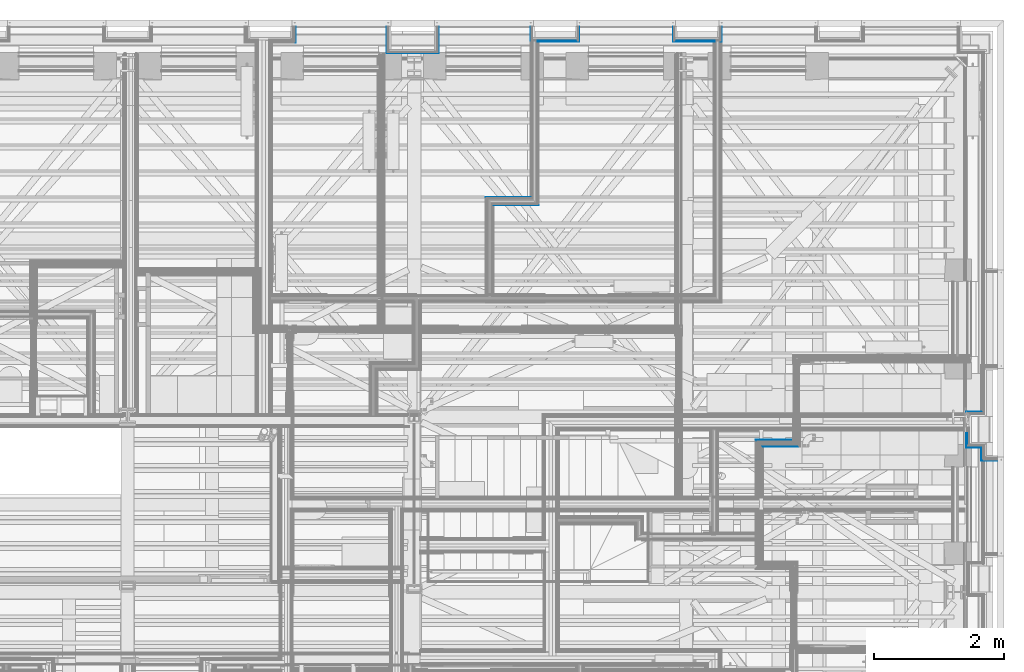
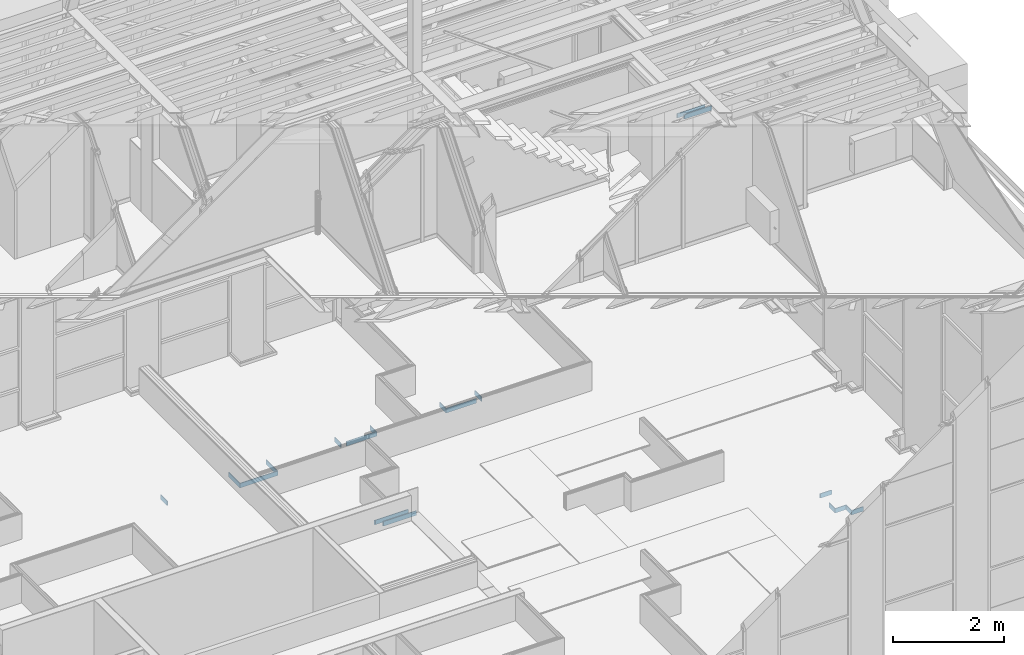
# One storey, part 80 of 183: 19 building element parts, 17 elements without a shape of their own.
"""IFC2X3 building model written with IfcOpenShell, lengths in metres."""

import ifcopenshell
import ifcopenshell.guid

model = None  # the IFC model being written
_history = None  # IfcOwnerHistory: only IFC2X3 demands one
_inside = {}  # id of a spatial element -> (the spatial element, [elements in it])
_under = {}  # id of a project, library or spatial element -> (it, [spatial elements below it])
_declared = {}  # id of a project -> (the project, [libraries it declares])
_typed = {}  # id of a type object -> (the type object, [elements of that type])
_made_of = {}  # id of a material, layer set ... -> (it, [elements and type objects made of it])


def new_model(schema):
    """Start an empty IFC model of exactly this schema.

    Asked for "IFC4X3", IfcOpenShell would pick the latest addendum, in which some entities
    have other attributes; the version numbers below select the first issue.
    IFC2X3 requires an IfcOwnerHistory on every rooted entity: one is made here for all.
    """
    global model, _history
    if schema == "IFC4X3":
        model = ifcopenshell.file(schema_version=(4, 3, 0, 0))
    else:
        model = ifcopenshell.file(schema=schema)
    _inside.clear()
    _under.clear()
    _declared.clear()
    _typed.clear()
    _made_of.clear()
    _history = None
    if model.schema == "IFC2X3":
        org = make("IfcOrganization", Name="unknown")
        user = make(
            "IfcPersonAndOrganization",
            ThePerson=make("IfcPerson", FamilyName="unknown"),
            TheOrganization=org,
        )
        app = make(
            "IfcApplication",
            ApplicationDeveloper=org,
            Version="unknown",
            ApplicationFullName="unknown",
            ApplicationIdentifier="unknown",
        )
        _history = make(
            "IfcOwnerHistory",
            OwningUser=user,
            OwningApplication=app,
            ChangeAction="ADDED",
            CreationDate=0,
        )
    return model


def make(cls, **values):
    """One entity of the class cls with the attributes given. An attribute that is None is left unset."""
    return model.create_entity(
        cls, **{name: value for name, value in values.items() if value is not None}
    )


def entity(cls, *values):
    """Any entity or typed value of the class cls, its attributes in the order of the schema. None: left unset."""
    e = model.create_entity(cls)
    for i, value in enumerate(values):
        if value is not None:
            e[i] = value
    return e


def rooted(cls, **values):
    """An entity with a GlobalId (a new one), such as an element, a storey or a relation."""
    return make(cls, GlobalId=ifcopenshell.guid.new(), OwnerHistory=_history, **values)


def si_unit(unit_type, name, prefix=None):
    """IfcSIUnit, for example si_unit("LENGTHUNIT", "METRE", prefix="MILLI")."""
    return make("IfcSIUnit", UnitType=unit_type, Prefix=prefix, Name=name)


def converted_unit(unit_type, name, factor, base, dimensions=None, offset=None):
    """IfcConversionBasedUnit, such as the inch: factor (a typed value) times the base unit."""
    return make(
        "IfcConversionBasedUnit"
        if offset is None
        else "IfcConversionBasedUnitWithOffset",
        ConversionOffset=offset,
        Dimensions=None
        if dimensions is None
        else entity("IfcDimensionalExponents", *dimensions),
        UnitType=unit_type,
        Name=name,
        ConversionFactor=make(
            "IfcMeasureWithUnit", ValueComponent=factor, UnitComponent=base
        ),
    )


def derived_unit(unit_type, elements):
    """IfcDerivedUnit: a product of units, each with its exponent."""
    return make(
        "IfcDerivedUnit",
        Elements=[
            make("IfcDerivedUnitElement", Unit=unit, Exponent=power)
            for unit, power in elements
        ],
        UnitType=unit_type,
    )


def money_unit(currency):
    """IfcMonetaryUnit."""
    return make("IfcMonetaryUnit", Currency=currency)


def assignment(units):
    """IfcUnitAssignment: the units of a project."""
    return None if units is None else make("IfcUnitAssignment", Units=units)


def point(xyz):
    """IfcCartesianPoint."""
    return None if xyz is None else make("IfcCartesianPoint", Coordinates=xyz)


def direction(xyz):
    """IfcDirection."""
    return None if xyz is None else make("IfcDirection", DirectionRatios=xyz)


def frame(location, z_axis=None, x_axis=None):
    """IfcAxis2Placement3D, a coordinate frame: its origin and axes. An axis left out is left unset."""
    return make(
        "IfcAxis2Placement3D",
        Location=point(location),
        Axis=direction(z_axis),
        RefDirection=direction(x_axis),
    )


def frame_2d(location, x_axis=None):
    """IfcAxis2Placement2D, a coordinate frame in the plane: its origin and x axis."""
    return make(
        "IfcAxis2Placement2D", Location=point(location), RefDirection=direction(x_axis)
    )


def origin_with_axes():
    """The frame at (0, 0, 0) with the z axis (0, 0, 1) and the x axis (1, 0, 0) written out."""
    return frame((0.0, 0.0, 0.0), z_axis=(0.0, 0.0, 1.0), x_axis=(1.0, 0.0, 0.0))


def place(relative_to, where):
    """IfcLocalPlacement: puts the frame where relative to a parent placement (None: the world)."""
    return make(
        "IfcLocalPlacement", PlacementRelTo=relative_to, RelativePlacement=where
    )


def context(
    kind, dimensions, precision=None, world=None, true_north=None, identifier=None
):
    """IfcGeometricRepresentationContext, for example the 3D "Model" context."""
    return make(
        "IfcGeometricRepresentationContext",
        ContextIdentifier=identifier,
        ContextType=kind,
        CoordinateSpaceDimension=dimensions,
        Precision=precision,
        WorldCoordinateSystem=world,
        TrueNorth=true_north,
    )


def subcontext(parent, identifier, kind, view, scale=None):
    """IfcGeometricRepresentationSubContext, for example "Body" below "Model"."""
    return make(
        "IfcGeometricRepresentationSubContext",
        ContextIdentifier=identifier,
        ContextType=kind,
        ParentContext=parent,
        TargetScale=scale,
        TargetView=view,
    )


def project(units=None, contexts=None):
    """IfcProject with its units and contexts."""
    return rooted(
        "IfcProject",
        Name="project",
        RepresentationContexts=contexts,
        UnitsInContext=assignment(units),
    )


def spatial(cls, under=None, at=None, **own):
    """A site, building, storey or space (cls), placed at a placement, below another one or the project."""
    s = rooted(cls, ObjectPlacement=at, **own)
    if under is not None:
        _under.setdefault(under.id(), (under, []))[1].append(s)
    return s


def polyline(points):
    """IfcPolyline through the points."""
    return make("IfcPolyline", Points=[point(p) for p in points])


def profile(cls, at=None, kind="AREA", **sizes):
    """A parametric profile (cls). Its sizes go by their IFC names, for example OverallWidth=200.0."""
    return make(cls, ProfileType=kind, Position=at, **sizes)


def rectangle(**sizes):
    """IfcRectangleProfileDef."""
    return profile("IfcRectangleProfileDef", **sizes)


def outline(outer, holes=None, kind="AREA"):
    """IfcArbitraryClosedProfileDef: a profile drawn as a closed curve; with holes, ...WithVoids."""
    if holes is None:
        return make("IfcArbitraryClosedProfileDef", ProfileType=kind, OuterCurve=outer)
    return make(
        "IfcArbitraryProfileDefWithVoids",
        ProfileType=kind,
        OuterCurve=outer,
        InnerCurves=holes,
    )


def extrude(swept, where, along, depth):
    """IfcExtrudedAreaSolid: the profile swept, set in the frame where, extruded along a direction by depth."""
    return make(
        "IfcExtrudedAreaSolid",
        SweptArea=swept,
        Position=where,
        ExtrudedDirection=direction(along),
        Depth=depth,
    )


def shape(context_of_items, identifier, shape_type, items):
    """IfcShapeRepresentation: the items that make up one representation, for example the "Body"."""
    return make(
        "IfcShapeRepresentation",
        ContextOfItems=context_of_items,
        RepresentationIdentifier=identifier,
        RepresentationType=shape_type,
        Items=items,
    )


def material(Name=None, Category=None):
    """IfcMaterial."""
    return make("IfcMaterial", Name=Name, Category=Category)


def made_of(thing, what):
    """Note that an element or type object is made of a material, layer set ...; save() writes the relation."""
    if what is not None:
        _made_of.setdefault(what.id(), (what, []))[1].append(thing)
    return thing


def type_object(cls, material=None, **own):
    """A type object (cls), such as IfcWallType, which elements share."""
    return made_of(rooted(cls, **own), material)


def element(
    cls,
    number,
    at=None,
    inside=None,
    cuts=None,
    type_object=None,
    material=None,
    context=None,
    identifier="Body",
    shape_type=None,
    held_by="IfcProductDefinitionShape",
    body=None,
    shapes=None,
    **own,
):
    """One element of the class cls, such as IfcWall. Its Tag is "e" and its number.

    at: its placement. inside: the storey or other place that contains it. cuts: it is an
    opening in that element (IfcRelVoidsElement). A single representation is given by context,
    identifier, shape_type and body (its items); several are given by shapes. held_by: the class
    of the entity that holds the representations. save() writes the other relations.
    """
    e = rooted(cls, Tag="e%d" % number, ObjectPlacement=at, **own)
    if body is not None:
        shapes = [shape(context, identifier, shape_type, body)]
    if shapes is not None:
        e.Representation = make(held_by, Representations=shapes)
    if inside is not None:
        _inside.setdefault(inside.id(), (inside, []))[1].append(e)
    if cuts is not None:
        rooted(
            "IfcRelVoidsElement", RelatingBuildingElement=cuts, RelatedOpeningElement=e
        )
    if type_object is not None:
        _typed.setdefault(type_object.id(), (type_object, []))[1].append(e)
    return made_of(e, material)


def aggregate(whole, parts):
    """IfcRelAggregates: a whole, such as a stair, and the parts it consists of."""
    return rooted("IfcRelAggregates", RelatingObject=whole, RelatedObjects=parts)


def save(model, path):
    """Write the relations noted so far, then the file.

    IfcRelAggregates (storeys below a building ...), IfcRelContainedInSpatialStructure (elements
    in a storey), IfcRelDefinesByType, IfcRelAssociatesMaterial and IfcRelDeclares: one each for
    every whole, place, type object, material and project.
    """
    for whole, parts in _under.values():
        aggregate(whole, parts)
    for where, things in _inside.values():
        rooted(
            "IfcRelContainedInSpatialStructure",
            RelatedElements=things,
            RelatingStructure=where,
        )
    for kind, things in _typed.values():
        rooted("IfcRelDefinesByType", RelatedObjects=things, RelatingType=kind)
    for what, things in _made_of.values():
        rooted("IfcRelAssociatesMaterial", RelatedObjects=things, RelatingMaterial=what)
    for by, libraries in _declared.values():
        rooted("IfcRelDeclares", RelatingContext=by, RelatedDefinitions=libraries)
    model.write(path)


model = new_model("IFC2X3")

# Units and contexts
model_context = context("Model", 3, precision=1e-05, world=origin_with_axes(), true_north=direction((0.0, 1.0)))
body_context = subcontext(model_context, "Body", "Model", "MODEL_VIEW", scale=1.0)
ifc_project = project(units=[si_unit("LENGTHUNIT", "METRE"), si_unit("AREAUNIT", "SQUARE_METRE"), si_unit("VOLUMEUNIT", "CUBIC_METRE"), si_unit("ABSORBEDDOSEUNIT", "GRAY"), si_unit("AMOUNTOFSUBSTANCEUNIT", "MOLE"), si_unit("DOSEEQUIVALENTUNIT", "SIEVERT"), si_unit("ELECTRICCAPACITANCEUNIT", "FARAD"), si_unit("ELECTRICCHARGEUNIT", "COULOMB"), si_unit("ELECTRICCONDUCTANCEUNIT", "SIEMENS"), si_unit("ELECTRICCURRENTUNIT", "AMPERE"), si_unit("ELECTRICRESISTANCEUNIT", "OHM"), si_unit("ELECTRICVOLTAGEUNIT", "VOLT"), si_unit("ENERGYUNIT", "JOULE"), si_unit("FORCEUNIT", "NEWTON"), si_unit("FREQUENCYUNIT", "HERTZ"), si_unit("ILLUMINANCEUNIT", "LUX"), si_unit("INDUCTANCEUNIT", "HENRY"), si_unit("LUMINOUSFLUXUNIT", "LUMEN"), si_unit("LUMINOUSINTENSITYUNIT", "CANDELA"), si_unit("MAGNETICFLUXDENSITYUNIT", "TESLA"), si_unit("MAGNETICFLUXUNIT", "WEBER"), si_unit("MASSUNIT", "GRAM"), converted_unit("PLANEANGLEUNIT", "degree", entity("IfcReal", 0.0174532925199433), si_unit("PLANEANGLEUNIT", "RADIAN"), dimensions=[0, 0, 0, 0, 0, 0, 0]), si_unit("POWERUNIT", "WATT"), si_unit("PRESSUREUNIT", "PASCAL"), si_unit("RADIOACTIVITYUNIT", "BECQUEREL"), si_unit("SOLIDANGLEUNIT", "STERADIAN"), si_unit("THERMODYNAMICTEMPERATUREUNIT", "KELVIN"), si_unit("TIMEUNIT", "SECOND"), derived_unit("ACCELERATIONUNIT", [(si_unit("LENGTHUNIT", "METRE"), 1), (si_unit("TIMEUNIT", "SECOND"), -2)]), derived_unit("ANGULARVELOCITYUNIT", [(converted_unit("PLANEANGLEUNIT", "degree", entity("IfcReal", 0.0174532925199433), si_unit("PLANEANGLEUNIT", "RADIAN"), dimensions=[0, 0, 0, 0, 0, 0, 0]), 1), (si_unit("TIMEUNIT", "SECOND"), -1)]), derived_unit("CURVATUREUNIT", [(converted_unit("PLANEANGLEUNIT", "degree", entity("IfcReal", 0.0174532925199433), si_unit("PLANEANGLEUNIT", "RADIAN"), dimensions=[0, 0, 0, 0, 0, 0, 0]), 1), (si_unit("LENGTHUNIT", "METRE"), -1)]), derived_unit("DYNAMICVISCOSITYUNIT", [(si_unit("PRESSUREUNIT", "PASCAL"), 1), (si_unit("TIMEUNIT", "SECOND"), 1)]), derived_unit("HEATFLUXDENSITYUNIT", [(si_unit("POWERUNIT", "WATT"), 1), (si_unit("LENGTHUNIT", "METRE"), -2)]), derived_unit("HEATINGVALUEUNIT", [(si_unit("ENERGYUNIT", "JOULE"), 1), (si_unit("MASSUNIT", "GRAM"), -1)]), derived_unit("INTEGERCOUNTRATEUNIT", [(si_unit("TIMEUNIT", "SECOND"), -1)]), derived_unit("IONCONCENTRATIONUNIT", [(si_unit("MASSUNIT", "GRAM"), 1), (si_unit("VOLUMEUNIT", "CUBIC_METRE"), -1)]), derived_unit("ISOTHERMALMOISTURECAPACITYUNIT", [(si_unit("VOLUMEUNIT", "CUBIC_METRE"), 1), (si_unit("MASSUNIT", "GRAM"), -1)]), derived_unit("KINEMATICVISCOSITYUNIT", [(si_unit("AREAUNIT", "SQUARE_METRE"), 1), (si_unit("TIMEUNIT", "SECOND"), -1)]), derived_unit("LINEARFORCEUNIT", [(si_unit("FORCEUNIT", "NEWTON"), 1), (si_unit("LENGTHUNIT", "METRE"), -1)]), derived_unit("LINEARMOMENTUNIT", [(si_unit("FORCEUNIT", "NEWTON"), 1), (si_unit("LENGTHUNIT", "METRE"), -1)]), derived_unit("LINEARSTIFFNESSUNIT", [(si_unit("FORCEUNIT", "NEWTON"), 1), (si_unit("LENGTHUNIT", "METRE"), -1)]), derived_unit("LINEARVELOCITYUNIT", [(si_unit("LENGTHUNIT", "METRE"), 1), (si_unit("TIMEUNIT", "SECOND"), -1)]), derived_unit("LUMINOUSINTENSITYDISTRIBUTIONUNIT", [(si_unit("LUMINOUSINTENSITYUNIT", "CANDELA"), 1), (si_unit("LUMINOUSFLUXUNIT", "LUMEN"), -1)]), derived_unit("MASSDENSITYUNIT", [(si_unit("MASSUNIT", "GRAM"), 1), (si_unit("VOLUMEUNIT", "CUBIC_METRE"), -1)]), derived_unit("MASSFLOWRATEUNIT", [(si_unit("MASSUNIT", "GRAM"), 1), (si_unit("TIMEUNIT", "SECOND"), -1)]), derived_unit("MASSPERLENGTHUNIT", [(si_unit("MASSUNIT", "GRAM"), 1), (si_unit("LENGTHUNIT", "METRE"), -1)]), derived_unit("MODULUSOFELASTICITYUNIT", [(si_unit("FORCEUNIT", "NEWTON"), 1), (si_unit("AREAUNIT", "SQUARE_METRE"), -1)]), derived_unit("MODULUSOFLINEARSUBGRADEREACTIONUNIT", [(si_unit("FORCEUNIT", "NEWTON"), 1), (si_unit("LENGTHUNIT", "METRE"), -2)]), derived_unit("MODULUSOFROTATIONALSUBGRADEREACTIONUNIT", [(si_unit("FORCEUNIT", "NEWTON"), 1), (si_unit("LENGTHUNIT", "METRE"), 1)]), derived_unit("MODULUSOFSUBGRADEREACTIONUNIT", [(si_unit("FORCEUNIT", "NEWTON"), 1), (si_unit("VOLUMEUNIT", "CUBIC_METRE"), -1)]), derived_unit("MOISTUREDIFFUSIVITYUNIT", [(si_unit("VOLUMEUNIT", "CUBIC_METRE"), 1), (si_unit("TIMEUNIT", "SECOND"), -1)]), derived_unit("MOLECULARWEIGHTUNIT", [(si_unit("MASSUNIT", "GRAM"), 1), (si_unit("AMOUNTOFSUBSTANCEUNIT", "MOLE"), -1)]), derived_unit("PLANARFORCEUNIT", [(si_unit("FORCEUNIT", "NEWTON"), 1), (si_unit("LENGTHUNIT", "METRE"), -2)]), derived_unit("ROTATIONALFREQUENCYUNIT", [(si_unit("TIMEUNIT", "SECOND"), -1)]), derived_unit("ROTATIONALMASSUNIT", [(si_unit("MASSUNIT", "GRAM"), 1), (si_unit("LENGTHUNIT", "METRE"), 2)]), derived_unit("ROTATIONALSTIFFNESSUNIT", [(si_unit("FORCEUNIT", "NEWTON"), 1), (si_unit("LENGTHUNIT", "METRE"), 1), (converted_unit("PLANEANGLEUNIT", "degree", entity("IfcReal", 0.0174532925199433), si_unit("PLANEANGLEUNIT", "RADIAN"), dimensions=[0, 0, 0, 0, 0, 0, 0]), -1)]), derived_unit("SECTIONAREAINTEGRALUNIT", [(si_unit("LENGTHUNIT", "METRE"), 5)]), derived_unit("SECTIONMODULUSUNIT", [(si_unit("LENGTHUNIT", "METRE"), 3)]), derived_unit("SHEARMODULUSUNIT", [(si_unit("FORCEUNIT", "NEWTON"), 1), (si_unit("AREAUNIT", "SQUARE_METRE"), -1)]), derived_unit("SOUNDPOWERUNIT", [(si_unit("ENERGYUNIT", "JOULE"), 1), (si_unit("TIMEUNIT", "SECOND"), -1)]), derived_unit("SPECIFICHEATCAPACITYUNIT", [(si_unit("FORCEUNIT", "NEWTON"), 1), (si_unit("MASSUNIT", "GRAM"), -1), (si_unit("THERMODYNAMICTEMPERATUREUNIT", "KELVIN"), -1)]), derived_unit("TEMPERATUREGRADIENTUNIT", [(si_unit("THERMODYNAMICTEMPERATUREUNIT", "KELVIN"), 1), (si_unit("LENGTHUNIT", "METRE"), -1)]), derived_unit("THERMALADMITTANCEUNIT", [(si_unit("POWERUNIT", "WATT"), 1), (si_unit("AREAUNIT", "SQUARE_METRE"), -1), (si_unit("THERMODYNAMICTEMPERATUREUNIT", "KELVIN"), -1)]), derived_unit("THERMALCONDUCTANCEUNIT", [(si_unit("POWERUNIT", "WATT"), 1), (si_unit("LENGTHUNIT", "METRE"), -1), (si_unit("THERMODYNAMICTEMPERATUREUNIT", "KELVIN"), -1)]), derived_unit("THERMALEXPANSIONCOEFFICIENTUNIT", [(si_unit("THERMODYNAMICTEMPERATUREUNIT", "KELVIN"), -1)]), derived_unit("THERMALRESISTANCEUNIT", [(si_unit("AREAUNIT", "SQUARE_METRE"), 1), (si_unit("POWERUNIT", "WATT"), -1)]), derived_unit("THERMALTRANSMITTANCEUNIT", [(si_unit("POWERUNIT", "WATT"), 1), (si_unit("AREAUNIT", "SQUARE_METRE"), -1), (si_unit("THERMODYNAMICTEMPERATUREUNIT", "KELVIN"), -1)]), derived_unit("TORQUEUNIT", [(si_unit("FORCEUNIT", "NEWTON"), 1), (si_unit("LENGTHUNIT", "METRE"), 1)]), derived_unit("VAPORPERMEABILITYUNIT", [(si_unit("MASSUNIT", "GRAM"), 1), (si_unit("TIMEUNIT", "SECOND"), -1)]), derived_unit("VOLUMETRICFLOWRATEUNIT", [(si_unit("VOLUMEUNIT", "CUBIC_METRE"), 1), (si_unit("TIMEUNIT", "SECOND"), -1)]), derived_unit("WARPINGCONSTANTUNIT", [(si_unit("LENGTHUNIT", "METRE"), 6)]), derived_unit("WARPINGMOMENTUNIT", [(si_unit("FORCEUNIT", "NEWTON"), 1), (si_unit("LENGTHUNIT", "METRE"), 2)]), money_unit("GBP")], contexts=[model_context])

# Site, building, storey
site_placement = place(None, origin_with_axes())
site = spatial("IfcSite", under=ifc_project, at=site_placement, Name="Site", CompositionType="ELEMENT")
building_placement = place(site_placement, origin_with_axes())
building = spatial("IfcBuilding", under=site, at=building_placement, Name="Building01", CompositionType="ELEMENT")
storey_placement = place(building_placement, frame((0.0, 0.0, 5.15), z_axis=(0.0, 0.0, 1.0), x_axis=(1.0, 0.0, 0.0)))
storey = spatial("IfcBuildingStorey", under=building, at=storey_placement, Name="1F", CompositionType="ELEMENT", Elevation=5.15)

# Wall, building element parts
wall_type_1 = type_object("IfcWallType", Name="SHE_A-Walls_Type05a_Partition_95mm_tall", PredefinedType="NOTDEFINED")
wall_1_placement = place(storey_placement, frame((19.085284, 12.099378, 0.0), z_axis=(0.0, 0.0, 1.0), x_axis=(1.0, 0.0, 0.0)))
wall_1 = element("IfcWall", 1, at=wall_1_placement, inside=storey, type_object=wall_type_1, Name="5A", ObjectType="SHE_A-Walls_Type05a_Partition_95mm_tall")
ifc_material = material(Name="A_BSUK_Walls_Timber")
placement_1 = place(wall_1_placement, origin_with_axes())
building_element_part_1 = element("IfcBuildingElementPart", 2, at=placement_1, material=ifc_material, Name="1", context=body_context, shape_type="SweptSolid", body=[
    extrude(outline(polyline([(0.724716, -0.035), (0.035, -0.035), (0.05, -0.05), (0.739716, -0.05), (0.724716, -0.035)])), frame((0.0, 0.0, 0.015), z_axis=(0.0, 0.0, 1.0), x_axis=(1.0, 0.0, 0.0)), (0.0, 0.0, 1.0), 0.1),
])
building_element_part_2 = element("IfcBuildingElementPart", 3, at=placement_1, material=ifc_material, Name="7", context=body_context, shape_type="SweptSolid", body=[
    extrude(outline(polyline([(0.614716, 0.075), (-0.075, 0.075), (-0.06, 0.06), (0.629716, 0.06), (0.614716, 0.075)])), frame((0.0, 0.0, 0.015), z_axis=(0.0, 0.0, 1.0), x_axis=(1.0, 0.0, 0.0)), (0.0, 0.0, 1.0), 0.1),
])
aggregate(wall_1, [building_element_part_1, building_element_part_2])

# Wall, building element part
wall_type_2 = type_object("IfcWallType", Name="SHE_A-Walls_Type06f_ExternalWallInsulation_48+15mm", PredefinedType="NOTDEFINED")
wall_2_placement = place(storey_placement, frame((26.88, 8.182326, 0.0), z_axis=(0.0, 0.0, 1.0), x_axis=(-1.0, 0.0, 0.0)))
wall_2 = element("IfcWall", 4, at=wall_2_placement, inside=storey, type_object=wall_type_2, Name="6F", ObjectType="SHE_A-Walls_Type06f_ExternalWallInsulation_48+15mm")
building_element_part_3_placement = place(wall_2_placement, origin_with_axes())
building_element_part_3 = element("IfcBuildingElementPart", 5, at=building_element_part_3_placement, material=ifc_material, Name="4", context=body_context, shape_type="SweptSolid", body=[
    extrude(outline(polyline([(0.248, 0.06), (0.0, 0.06), (0.0, 0.045), (0.233, 0.045), (0.248, 0.06)])), frame((0.0, 0.0, 0.015), z_axis=(0.0, 0.0, 1.0), x_axis=(1.0, 0.0, 0.0)), (0.0, 0.0, 1.0), 0.1),
])
aggregate(wall_2, [building_element_part_3])

wall_3_placement = place(storey_placement, frame((26.692, 8.182326, 0.0), z_axis=(0.0, 0.0, 1.0), x_axis=(0.0, 1.0, 0.0)))
wall_3 = element("IfcWall", 6, at=wall_3_placement, inside=storey, type_object=wall_type_2, Name="6F", ObjectType="SHE_A-Walls_Type06f_ExternalWallInsulation_48+15mm")
building_element_part_4_placement = place(wall_3_placement, origin_with_axes())
building_element_part_4 = element("IfcBuildingElementPart", 7, at=building_element_part_4_placement, material=ifc_material, Name="4", context=body_context, shape_type="SweptSolid", body=[
    extrude(outline(polyline([(0.139674, 0.06), (-0.06, 0.06), (-0.045, 0.045), (0.154674, 0.045), (0.139674, 0.06)])), frame((0.0, 0.0, 0.015), z_axis=(0.0, 0.0, 1.0), x_axis=(1.0, 0.0, 0.0)), (0.0, 0.0, 1.0), 0.1),
])
aggregate(wall_3, [building_element_part_4])

wall_4_placement = place(storey_placement, frame((26.692, 8.382, 0.0), z_axis=(0.0, 0.0, 1.0), x_axis=(-1.0, 0.0, 0.0)))
wall_4 = element("IfcWall", 8, at=wall_4_placement, inside=storey, type_object=wall_type_2, Name="6F", ObjectType="SHE_A-Walls_Type06f_ExternalWallInsulation_48+15mm")
building_element_part_5_placement = place(wall_4_placement, origin_with_axes())
building_element_part_5 = element("IfcBuildingElementPart", 9, at=building_element_part_5_placement, material=ifc_material, Name="4", context=body_context, shape_type="SweptSolid", body=[
    extrude(outline(polyline([(0.29, 0.06), (0.06, 0.06), (0.045, 0.045), (0.275, 0.045), (0.29, 0.06)])), frame((0.0, 0.0, 0.015), z_axis=(0.0, 0.0, 1.0), x_axis=(1.0, 0.0, 0.0)), (0.0, 0.0, 1.0), 0.1),
])
aggregate(wall_4, [building_element_part_5])

wall_5_placement = place(storey_placement, frame((26.462, 8.818, 0.0), z_axis=(0.0, 0.0, 1.0), x_axis=(1.0, 0.0, 0.0)))
wall_5 = element("IfcWall", 10, at=wall_5_placement, inside=storey, type_object=wall_type_2, Name="6F", ObjectType="SHE_A-Walls_Type06f_ExternalWallInsulation_48+15mm")
building_element_part_6_placement = place(wall_5_placement, origin_with_axes())
building_element_part_6 = element("IfcBuildingElementPart", 11, at=building_element_part_6_placement, material=ifc_material, Name="4", context=body_context, shape_type="SweptSolid", body=[
    extrude(outline(polyline([(0.17, 0.06), (-0.06, 0.06), (-0.045, 0.045), (0.185, 0.045), (0.17, 0.06)])), frame((0.0, 0.0, 0.015), z_axis=(0.0, 0.0, 1.0), x_axis=(1.0, 0.0, 0.0)), (0.0, 0.0, 1.0), 0.1),
])
aggregate(wall_5, [building_element_part_6])

wall_6_placement = place(storey_placement, frame((26.462, 8.382, 0.0), z_axis=(0.0, 0.0, 1.0), x_axis=(0.0, 1.0, 0.0)))
wall_6 = element("IfcWall", 12, at=wall_6_placement, inside=storey, type_object=wall_type_2, Name="6F", ObjectType="SHE_A-Walls_Type06f_ExternalWallInsulation_48+15mm")
building_element_part_7_placement = place(wall_6_placement, origin_with_axes())
building_element_part_7 = element("IfcBuildingElementPart", 13, at=building_element_part_7_placement, material=ifc_material, Name="6", context=body_context, shape_type="SweptSolid", body=[
    extrude(outline(polyline([(-0.06, 0.06), (-0.045, 0.045), (0.16257, 0.045), (0.16257, 0.06), (-0.06, 0.06)])), frame((0.0, 0.0, 0.015), z_axis=(0.0, 0.0, 1.0), x_axis=(1.0, 0.0, 0.0)), (0.0, 0.0, 1.0), 0.1),
])
aggregate(wall_6, [building_element_part_7])

wall_7_placement = place(storey_placement, frame((16.025, 14.8, 0.0), z_axis=(0.0, 0.0, 1.0), x_axis=(0.0, -1.0, 0.0)))
wall_7 = element("IfcWall", 14, at=wall_7_placement, inside=storey, type_object=wall_type_2, Name="6F", ObjectType="SHE_A-Walls_Type06f_ExternalWallInsulation_48+15mm")
building_element_part_8_placement = place(wall_7_placement, origin_with_axes())
building_element_part_8 = element("IfcBuildingElementPart", 15, at=building_element_part_8_placement, material=ifc_material, Name="4", context=body_context, shape_type="SweptSolid", body=[
    extrude(outline(polyline([(0.248, 0.06), (0.0, 0.06), (0.0, 0.045), (0.233, 0.045), (0.248, 0.06)])), frame((0.0, 0.0, 0.015), z_axis=(0.0, 0.0, 1.0), x_axis=(1.0, 0.0, 0.0)), (0.0, 0.0, 1.0), 0.1),
])
aggregate(wall_7, [building_element_part_8])

wall_type_3 = type_object("IfcWallType", Name="SHE_A-Walls_Type06d_ExternalWallInsulation_48mm", PredefinedType="NOTDEFINED")
wall_8_placement = place(storey_placement, frame((22.577, 14.8, 0.0), z_axis=(0.0, 0.0, 1.0), x_axis=(0.0, -1.0, 0.0)))
wall_8 = element("IfcWall", 16, at=wall_8_placement, inside=storey, type_object=wall_type_3, Name="6D", ObjectType="SHE_A-Walls_Type06d_ExternalWallInsulation_48mm")
building_element_part_9_placement = place(wall_8_placement, origin_with_axes())
building_element_part_9 = element("IfcBuildingElementPart", 17, at=building_element_part_9_placement, material=ifc_material, Name="3", context=body_context, shape_type="SweptSolid", body=[
    extrude(rectangle(XDim=0.233, YDim=0.015, at=frame_2d((0.1165, 0.0555), x_axis=(-1.0, 0.0))), frame((0.0, 0.0, 0.015), z_axis=(0.0, 0.0, 1.0), x_axis=(1.0, 0.0, 0.0)), (0.0, 0.0, 1.0), 0.1),
])
aggregate(wall_8, [building_element_part_9])

wall_9_placement = place(storey_placement, frame((22.613, 14.63, 0.0), z_axis=(0.0, 0.0, 1.0), x_axis=(-1.0, 0.0, 0.0)))
wall_9 = element("IfcWall", 18, at=wall_9_placement, inside=storey, type_object=wall_type_3, Name="6D", ObjectType="SHE_A-Walls_Type06d_ExternalWallInsulation_48mm")
building_element_part_10_placement = place(wall_9_placement, origin_with_axes())
building_element_part_10 = element("IfcBuildingElementPart", 19, at=building_element_part_10_placement, material=ifc_material, Name="3", context=body_context, shape_type="SweptSolid", body=[
    extrude(outline(polyline([(0.723, 0.063), (0.083, 0.063), (0.083, 0.048), (0.708, 0.048), (0.723, 0.063)])), frame((0.0, 0.0, 0.015), z_axis=(0.0, 0.0, 1.0), x_axis=(1.0, 0.0, 0.0)), (0.0, 0.0, 1.0), 0.1),
])
aggregate(wall_9, [building_element_part_10])

wall_10_placement = place(storey_placement, frame((21.953, 14.63, 0.0), z_axis=(0.0, 0.0, 1.0), x_axis=(0.0, 1.0, 0.0)))
wall_10 = element("IfcWall", 20, at=wall_10_placement, inside=storey, type_object=wall_type_3, Name="6D", ObjectType="SHE_A-Walls_Type06d_ExternalWallInsulation_48mm")
building_element_part_11_placement = place(wall_10_placement, origin_with_axes())
building_element_part_11 = element("IfcBuildingElementPart", 21, at=building_element_part_11_placement, material=ifc_material, Name="3", context=body_context, shape_type="SweptSolid", body=[
    extrude(outline(polyline([(-0.063, 0.063), (-0.048, 0.048), (0.17, 0.048), (0.17, 0.063), (-0.063, 0.063)])), frame((0.0, 0.0, 0.015), z_axis=(0.0, 0.0, 1.0), x_axis=(1.0, 0.0, 0.0)), (0.0, 0.0, 1.0), 0.1),
])
aggregate(wall_10, [building_element_part_11])

wall_11_placement = place(storey_placement, frame((20.387, 14.8, 0.0), z_axis=(0.0, 0.0, 1.0), x_axis=(0.0, -1.0, 0.0)))
wall_11 = element("IfcWall", 22, at=wall_11_placement, inside=storey, type_object=wall_type_3, Name="6D", ObjectType="SHE_A-Walls_Type06d_ExternalWallInsulation_48mm")
building_element_part_12_placement = place(wall_11_placement, origin_with_axes())
building_element_part_12 = element("IfcBuildingElementPart", 23, at=building_element_part_12_placement, material=ifc_material, Name="3", context=body_context, shape_type="SweptSolid", body=[
    extrude(outline(polyline([(0.233, 0.063), (0.0, 0.063), (0.0, 0.048), (0.218, 0.048), (0.233, 0.063)])), frame((0.0, 0.0, 0.015), z_axis=(0.0, 0.0, 1.0), x_axis=(1.0, 0.0, 0.0)), (0.0, 0.0, 1.0), 0.1),
])
aggregate(wall_11, [building_element_part_12])

wall_12_placement = place(storey_placement, frame((20.423, 14.63, 0.0), z_axis=(0.0, 0.0, 1.0), x_axis=(-1.0, 0.0, 0.0)))
wall_12 = element("IfcWall", 24, at=wall_12_placement, inside=storey, type_object=wall_type_3, Name="6D", ObjectType="SHE_A-Walls_Type06d_ExternalWallInsulation_48mm")
building_element_part_13_placement = place(wall_12_placement, origin_with_axes())
building_element_part_13 = element("IfcBuildingElementPart", 25, at=building_element_part_13_placement, material=ifc_material, Name="3", context=body_context, shape_type="SweptSolid", body=[
    extrude(outline(polyline([(0.613, 0.063), (-0.027, 0.063), (-0.012, 0.048), (0.613, 0.048), (0.613, 0.063)])), frame((0.0, 0.0, 0.015), z_axis=(0.0, 0.0, 1.0), x_axis=(1.0, 0.0, 0.0)), (0.0, 0.0, 1.0), 0.1),
])
aggregate(wall_12, [building_element_part_13])

wall_13_placement = place(storey_placement, frame((19.763, 14.63, 0.0), z_axis=(0.0, 0.0, 1.0), x_axis=(0.0, 1.0, 0.0)))
wall_13 = element("IfcWall", 26, at=wall_13_placement, inside=storey, type_object=wall_type_3, Name="6D", ObjectType="SHE_A-Walls_Type06d_ExternalWallInsulation_48mm")
building_element_part_14_placement = place(wall_13_placement, origin_with_axes())
building_element_part_14 = element("IfcBuildingElementPart", 27, at=building_element_part_14_placement, material=ifc_material, Name="3", context=body_context, shape_type="SweptSolid", body=[
    extrude(rectangle(XDim=0.218, YDim=0.015, at=frame_2d((0.061, 0.0555), x_axis=(1.0, 0.0))), frame((0.0, 0.0, 0.015), z_axis=(0.0, 0.0, 1.0), x_axis=(1.0, 0.0, 0.0)), (0.0, 0.0, 1.0), 0.1),
])
aggregate(wall_13, [building_element_part_14])

wall_14_placement = place(storey_placement, frame((18.22, 14.8, 0.0), z_axis=(0.0, 0.0, 1.0), x_axis=(0.0, -1.0, 0.0)))
wall_14 = element("IfcWall", 28, at=wall_14_placement, inside=storey, type_object=wall_type_3, Name="6D", ObjectType="SHE_A-Walls_Type06d_ExternalWallInsulation_48mm")
building_element_part_15_placement = place(wall_14_placement, origin_with_axes())
building_element_part_15 = element("IfcBuildingElementPart", 29, at=building_element_part_15_placement, material=ifc_material, Name="3", context=body_context, shape_type="SweptSolid", body=[
    extrude(outline(polyline([(0.413, 0.063), (0.0, 0.063), (0.0, 0.048), (0.398, 0.048), (0.413, 0.063)])), frame((0.0, 0.0, 0.015), z_axis=(0.0, 0.0, 1.0), x_axis=(1.0, 0.0, 0.0)), (0.0, 0.0, 1.0), 0.1),
])
aggregate(wall_14, [building_element_part_15])

wall_15_placement = place(storey_placement, frame((18.22, 14.45, 0.0), z_axis=(0.0, 0.0, 1.0), x_axis=(-1.0, 0.0, 0.0)))
wall_15 = element("IfcWall", 30, at=wall_15_placement, inside=storey, type_object=wall_type_3, Name="6D", ObjectType="SHE_A-Walls_Type06d_ExternalWallInsulation_48mm")
building_element_part_16_placement = place(wall_15_placement, origin_with_axes())
building_element_part_16 = element("IfcBuildingElementPart", 31, at=building_element_part_16_placement, material=ifc_material, Name="3", context=body_context, shape_type="SweptSolid", body=[
    extrude(outline(polyline([(0.733, 0.063), (-0.063, 0.063), (-0.048, 0.048), (0.718, 0.048), (0.733, 0.063)])), frame((0.0, 0.0, 0.015), z_axis=(0.0, 0.0, 1.0), x_axis=(1.0, 0.0, 0.0)), (0.0, 0.0, 1.0), 0.1),
])
aggregate(wall_15, [building_element_part_16])

wall_16_placement = place(storey_placement, frame((17.55, 14.45, 0.0), z_axis=(0.0, 0.0, 1.0), x_axis=(0.0, 1.0, 0.0)))
wall_16 = element("IfcWall", 32, at=wall_16_placement, inside=storey, type_object=wall_type_3, Name="6D", ObjectType="SHE_A-Walls_Type06d_ExternalWallInsulation_48mm")
building_element_part_17_placement = place(wall_16_placement, origin_with_axes())
building_element_part_17 = element("IfcBuildingElementPart", 33, at=building_element_part_17_placement, material=ifc_material, Name="3", context=body_context, shape_type="SweptSolid", body=[
    extrude(outline(polyline([(-0.063, 0.063), (-0.048, 0.048), (0.35, 0.048), (0.35, 0.063), (-0.063, 0.063)])), frame((0.0, 0.0, 0.015), z_axis=(0.0, 0.0, 1.0), x_axis=(1.0, 0.0, 0.0)), (0.0, 0.0, 1.0), 0.1),
])
aggregate(wall_16, [building_element_part_17])

# Wall, building element parts
wall_type_4 = type_object("IfcWallType", Name="SHE_A-Walls_Type05b_Partition_80mm", PredefinedType="NOTDEFINED")
wall_17_placement = place(storey_placement, frame((23.206821, 8.401915, 9.78), z_axis=(0.0, 0.0, 1.0), x_axis=(1.0, 0.0, 0.0)))
wall_17 = element("IfcWall", 34, at=wall_17_placement, inside=storey, type_object=wall_type_4, Name="5B", ObjectType="SHE_A-Walls_Type05b_Partition_80mm")
placement_2 = place(wall_17_placement, origin_with_axes())
building_element_part_18 = element("IfcBuildingElementPart", 35, at=placement_2, material=ifc_material, Name="1", context=body_context, shape_type="SweptSolid", body=[
    extrude(outline(polyline([(0.623179, -0.052), (0.052, -0.052), (0.067, -0.067), (0.638179, -0.067), (0.623179, -0.052)])), frame((0.0, 0.0, 0.015), z_axis=(0.0, 0.0, 1.0), x_axis=(1.0, 0.0, 0.0)), (0.0, 0.0, 1.0), 0.1),
])
building_element_part_19 = element("IfcBuildingElementPart", 36, at=placement_2, material=ifc_material, Name="7", context=body_context, shape_type="SweptSolid", body=[
    extrude(outline(polyline([(0.528179, 0.043), (-0.043, 0.043), (-0.028, 0.028), (0.543179, 0.028), (0.528179, 0.043)])), frame((0.0, 0.0, 0.015), z_axis=(0.0, 0.0, 1.0), x_axis=(1.0, 0.0, 0.0)), (0.0, 0.0, 1.0), 0.1),
])
aggregate(wall_17, [building_element_part_18, building_element_part_19])

save(model, "model.ifc")
